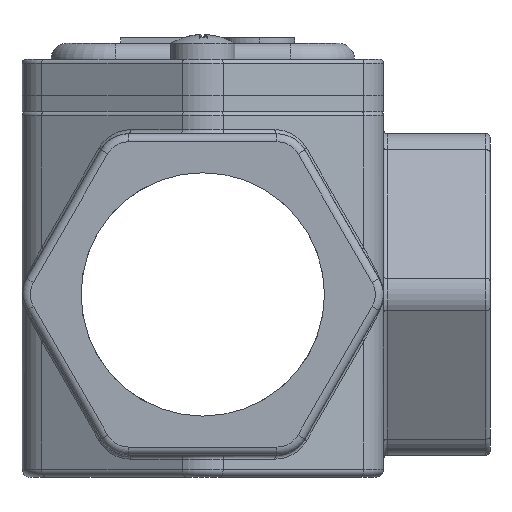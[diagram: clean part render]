
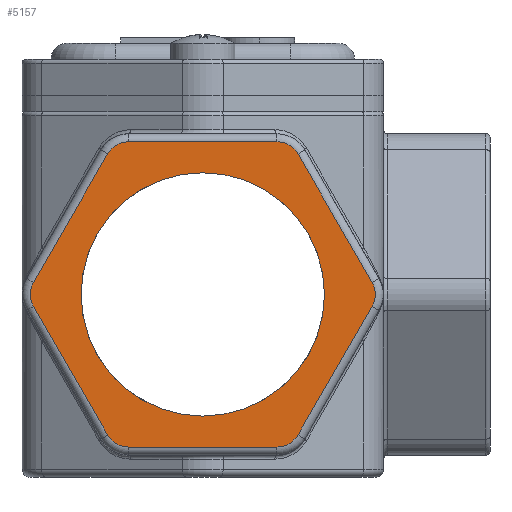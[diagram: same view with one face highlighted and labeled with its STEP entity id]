
A CAD part, left-side view. The second image highlights one B-rep face of the part: STEP entity #5157.
In plain terms, the highlighted planar face has unit normal (-1, 0, 0).
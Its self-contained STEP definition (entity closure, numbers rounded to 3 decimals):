
#1171=CARTESIAN_POINT('',(-72.5,0.,37.896));
#1172=VERTEX_POINT('',#1171);
#1173=CARTESIAN_POINT('',(-72.5,0.,22.75));
#1174=DIRECTION('',(1.0,0.0,0.0));
#1175=DIRECTION('',(0.0,0.0,1.0));
#1176=AXIS2_PLACEMENT_3D('',#1173,#1174,#1175);
#1177=CIRCLE('',#1176,15.145);
#1178=EDGE_CURVE('',#1172,#1172,#1177,.T.);
#3097=CARTESIAN_POINT('',(-72.5,11.836,40.25));
#3098=VERTEX_POINT('',#3097);
#3116=CARTESIAN_POINT('',(-72.5,21.073,24.25));
#3117=VERTEX_POINT('',#3116);
#3125=CARTESIAN_POINT('',(-72.5,21.073,24.25));
#3126=DIRECTION('',(0.0,-0.5,0.866));
#3127=VECTOR('',#3126,18.475);
#3128=LINE('',#3125,#3127);
#3129=EDGE_CURVE('',#3117,#3098,#3128,.T.);
#3139=CARTESIAN_POINT('',(-72.5,21.073,21.25));
#3140=VERTEX_POINT('',#3139);
#3158=CARTESIAN_POINT('',(-72.5,11.836,5.25));
#3159=VERTEX_POINT('',#3158);
#3167=CARTESIAN_POINT('',(-72.5,11.836,5.25));
#3168=DIRECTION('',(0.0,0.5,0.866));
#3169=VECTOR('',#3168,18.475);
#3170=LINE('',#3167,#3169);
#3171=EDGE_CURVE('',#3159,#3140,#3170,.T.);
#3181=CARTESIAN_POINT('',(-72.5,9.238,3.75));
#3182=VERTEX_POINT('',#3181);
#3200=CARTESIAN_POINT('',(-72.5,-9.238,3.75));
#3201=VERTEX_POINT('',#3200);
#3209=CARTESIAN_POINT('',(-72.5,-9.238,3.75));
#3210=DIRECTION('',(0.0,1.0,0.0));
#3211=VECTOR('',#3210,18.475);
#3212=LINE('',#3209,#3211);
#3213=EDGE_CURVE('',#3201,#3182,#3212,.T.);
#3223=CARTESIAN_POINT('',(-72.5,-11.836,5.25));
#3224=VERTEX_POINT('',#3223);
#3242=CARTESIAN_POINT('',(-72.5,-21.073,21.25));
#3243=VERTEX_POINT('',#3242);
#3251=CARTESIAN_POINT('',(-72.5,-21.073,21.25));
#3252=DIRECTION('',(0.0,0.5,-0.866));
#3253=VECTOR('',#3252,18.475);
#3254=LINE('',#3251,#3253);
#3255=EDGE_CURVE('',#3243,#3224,#3254,.T.);
#3265=CARTESIAN_POINT('',(-72.5,-21.073,24.25));
#3266=VERTEX_POINT('',#3265);
#3284=CARTESIAN_POINT('',(-72.5,-11.836,40.25));
#3285=VERTEX_POINT('',#3284);
#3293=CARTESIAN_POINT('',(-72.5,-11.836,40.25));
#3294=DIRECTION('',(0.0,-0.5,-0.866));
#3295=VECTOR('',#3294,18.475);
#3296=LINE('',#3293,#3295);
#3297=EDGE_CURVE('',#3285,#3266,#3296,.T.);
#3307=CARTESIAN_POINT('',(-72.5,-9.238,41.75));
#3308=VERTEX_POINT('',#3307);
#3326=CARTESIAN_POINT('',(-72.5,9.238,41.75));
#3327=VERTEX_POINT('',#3326);
#3335=CARTESIAN_POINT('',(-72.5,9.238,41.75));
#3336=DIRECTION('',(0.0,-1.0,0.0));
#3337=VECTOR('',#3336,18.475);
#3338=LINE('',#3335,#3337);
#3339=EDGE_CURVE('',#3327,#3308,#3338,.T.);
#4802=CARTESIAN_POINT('',(-72.5,-9.238,38.75));
#4803=DIRECTION('',(1.0,0.0,0.0));
#4804=DIRECTION('',(0.0,-0.5,0.866));
#4805=AXIS2_PLACEMENT_3D('',#4802,#4803,#4804);
#4806=CIRCLE('',#4805,3.);
#4807=EDGE_CURVE('',#3308,#3285,#4806,.T.);
#4826=CARTESIAN_POINT('',(-72.5,-18.475,22.75));
#4827=DIRECTION('',(1.0,0.0,0.0));
#4828=DIRECTION('',(0.0,-1.0,0.0));
#4829=AXIS2_PLACEMENT_3D('',#4826,#4827,#4828);
#4830=CIRCLE('',#4829,3.);
#4831=EDGE_CURVE('',#3266,#3243,#4830,.T.);
#4850=CARTESIAN_POINT('',(-72.5,-9.238,6.75));
#4851=DIRECTION('',(1.0,0.0,0.0));
#4852=DIRECTION('',(0.0,-0.5,-0.866));
#4853=AXIS2_PLACEMENT_3D('',#4850,#4851,#4852);
#4854=CIRCLE('',#4853,3.);
#4855=EDGE_CURVE('',#3224,#3201,#4854,.T.);
#4874=CARTESIAN_POINT('',(-72.5,9.238,6.75));
#4875=DIRECTION('',(1.0,0.0,0.0));
#4876=DIRECTION('',(0.0,0.5,-0.866));
#4877=AXIS2_PLACEMENT_3D('',#4874,#4875,#4876);
#4878=CIRCLE('',#4877,3.);
#4879=EDGE_CURVE('',#3182,#3159,#4878,.T.);
#4898=CARTESIAN_POINT('',(-72.5,18.475,22.75));
#4899=DIRECTION('',(1.0,0.0,0.0));
#4900=DIRECTION('',(0.0,1.0,0.0));
#4901=AXIS2_PLACEMENT_3D('',#4898,#4899,#4900);
#4902=CIRCLE('',#4901,3.);
#4903=EDGE_CURVE('',#3140,#3117,#4902,.T.);
#4922=CARTESIAN_POINT('',(-72.5,9.238,38.75));
#4923=DIRECTION('',(1.0,0.0,0.0));
#4924=DIRECTION('',(0.0,0.5,0.866));
#4925=AXIS2_PLACEMENT_3D('',#4922,#4923,#4924);
#4926=CIRCLE('',#4925,3.);
#4927=EDGE_CURVE('',#3098,#3327,#4926,.T.);
#5135=CARTESIAN_POINT('',(-72.5,0.,22.75));
#5136=DIRECTION('',(-1.0,0.0,0.0));
#5137=DIRECTION('',(0.0,0.0,-1.0));
#5138=AXIS2_PLACEMENT_3D('',#5135,#5136,#5137);
#5139=PLANE('',#5138);
#5140=ORIENTED_EDGE('',*,*,#3339,.F.);
#5141=ORIENTED_EDGE('',*,*,#4927,.F.);
#5142=ORIENTED_EDGE('',*,*,#3129,.F.);
#5143=ORIENTED_EDGE('',*,*,#4903,.F.);
#5144=ORIENTED_EDGE('',*,*,#3171,.F.);
#5145=ORIENTED_EDGE('',*,*,#4879,.F.);
#5146=ORIENTED_EDGE('',*,*,#3213,.F.);
#5147=ORIENTED_EDGE('',*,*,#4855,.F.);
#5148=ORIENTED_EDGE('',*,*,#3255,.F.);
#5149=ORIENTED_EDGE('',*,*,#4831,.F.);
#5150=ORIENTED_EDGE('',*,*,#3297,.F.);
#5151=ORIENTED_EDGE('',*,*,#4807,.F.);
#5152=EDGE_LOOP('',(#5140,#5141,#5142,#5143,#5144,#5145,#5146,#5147,#5148,#5149,#5150,#5151));
#5153=FACE_OUTER_BOUND('',#5152,.T.);
#5154=ORIENTED_EDGE('',*,*,#1178,.T.);
#5155=EDGE_LOOP('',(#5154));
#5156=FACE_BOUND('',#5155,.T.);
#5157=ADVANCED_FACE('',(#5153,#5156),#5139,.T.);
